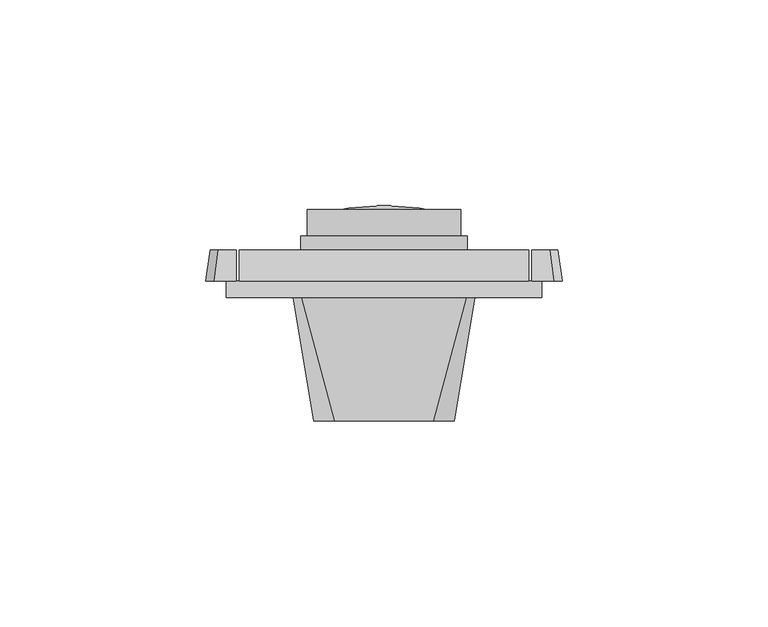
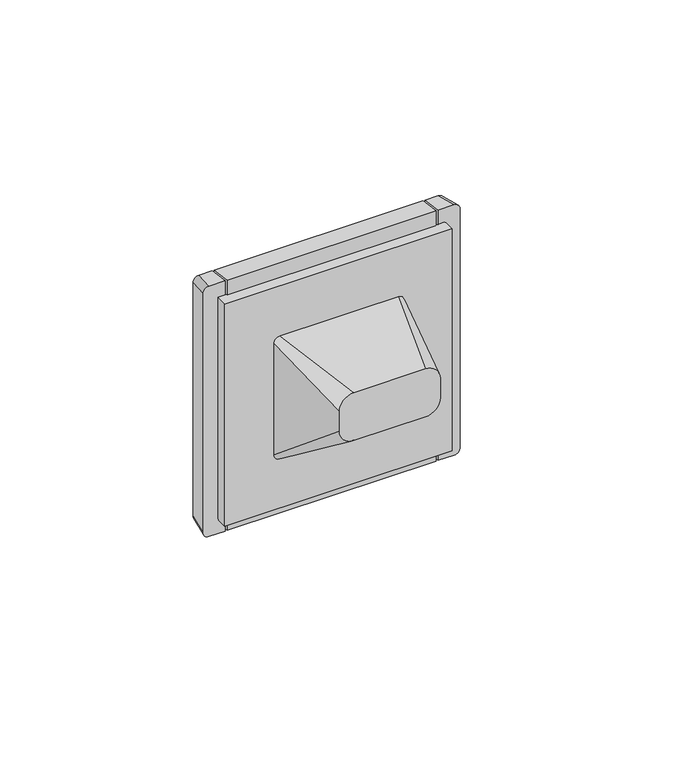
"""IFC4 building model written with IfcOpenShell, lengths in millimetres: proxy geometry, IEK_Forte&Piano_Свето-терморегулятор : СР_FP154."""

from ifc_helpers import new_model, si_unit, point, frame, origin, place, context, project, spatial, polyline, circle_curve, ellipse_curve, trimmed, source, transform, mapped, element, save
from ifc_brep_helpers import plane_surface, cylinder_surface, revolved_surface, extruded_surface, spline_surface, advanced_brep


def electrical_fixtures_bef22575(model_context):
    return source(origin(), model_context, "Body", "AdvancedBrep", [
        advanced_brep(
        [(20.1579006, 14.9544349, 0.0), (-20.1579006, 14.9544349, 0.0), (-19.3454313, 14.9544349, 0.0), (19.3454313, 14.9544349, 0.0), (20.1579006, 11.5, 0.0), (-20.1579006, 11.5, 0.0), (-19.3454313, 11.5, 0.0), (19.3454313, 11.5, 0.0), (35.2, 11.5, 43.5), (35.2, 4.0, 44.5), (35.2, 4.0, -44.5), (35.2, 11.5, -43.5), (-35.2, 11.5, 43.5), (-35.2, 11.5, -43.5), (-35.2, 4.0, -44.5), (-35.2, 4.0, 44.5)],
        [
            (0, 1, circle_curve(frame((0.0, 14.9544349, 0.0), z_axis=(0.0, 1.0, 0.0), x_axis=(-1.0, 0.0, 0.0)), 20.1579006)),
            (1, 2),
            (2, 3, circle_curve(frame((0.0, 14.9544349, 0.0), z_axis=(0.0, -1.0, 0.0), x_axis=(-1.0, 0.0, 0.0)), 19.3454313)),
            (3, 0),
            (1, 0, circle_curve(frame((0.0, 14.9544349, 0.0), z_axis=(0.0, 1.0, 0.0), x_axis=(-1.0, 0.0, 0.0)), 20.1579006)),
            (3, 2, circle_curve(frame((0.0, 14.9544349, 0.0), z_axis=(0.0, -1.0, 0.0), x_axis=(-1.0, 0.0, 0.0)), 19.3454313)),
            (0, 4),
            (4, 5, circle_curve(frame((0.0, 11.5, 0.0), z_axis=(0.0, 1.0, 0.0), x_axis=(-1.0, 0.0, 0.0)), 20.1579006)),
            (5, 1),
            (5, 4, circle_curve(frame((0.0, 11.5, 0.0), z_axis=(0.0, 1.0, 0.0), x_axis=(-1.0, 0.0, 0.0)), 20.1579006)),
            (2, 6),
            (6, 7, circle_curve(frame((0.0, 11.5, 0.0), z_axis=(0.0, -1.0, 0.0), x_axis=(-1.0, 0.0, 0.0)), 19.3454313)),
            (7, 3),
            (7, 6, circle_curve(frame((0.0, 11.5, 0.0), z_axis=(0.0, -1.0, 0.0), x_axis=(-1.0, 0.0, 0.0)), 19.3454313)),
            (8, 9),
            (9, 10),
            (10, 11),
            (11, 8),
            (12, 13),
            (13, 14),
            (14, 15),
            (15, 12),
            (8, 12),
            (15, 9),
            (14, 10),
            (13, 11),
        ],
        [
            plane_surface(frame((0.0, 14.9544349, 0.0), z_axis=(0.0, 1.0, 0.0), x_axis=(-1.0, 0.0, 0.0))),
            cylinder_surface(frame((0.0, 22.9805096, 0.0), z_axis=(0.0, -1.0, 0.0), x_axis=(-1.0, 0.0, 0.0)), 20.1579006),
            revolved_surface(polyline([(-19.3454313, 11.5, 0.0), (-19.3454313, 14.9544349, 0.0)]), (0.0, 22.9805096, 0.0), (0.0, -1.0, 0.0)),
            plane_surface(frame((35.2, 4.0, 44.5), z_axis=(1.0, 0.0, 0.0), x_axis=(0.0, -0.9912279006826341, 0.13216372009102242))),
            plane_surface(frame((-35.2, 4.0, 44.5), z_axis=(-1.0, 0.0, 0.0), x_axis=(0.0, 0.9912279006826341, -0.13216372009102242))),
            plane_surface(frame((35.2, 11.5, 43.5), z_axis=(0.0, 0.13216372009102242, 0.9912279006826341), x_axis=(-1.0, 0.0, 0.0))),
            plane_surface(frame((35.2, 4.0, 44.5), z_axis=(0.0, -1.0, 0.0), x_axis=(-1.0, 0.0, 0.0))),
            plane_surface(frame((35.2, 4.0, -44.5), z_axis=(0.0, 0.1321637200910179, -0.9912279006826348), x_axis=(-1.0, 0.0, 0.0))),
            plane_surface(frame((35.2, 11.5, -43.5), z_axis=(0.0, 1.0, 0.0), x_axis=(-1.0, 0.0, 0.0))),
        ],
        [
            (0, [[1, 2, 3, 4]]),
            (0, [[-2, 5, -4, 6]]),
            (1, [[-1, 7, 8, 9]]),
            (1, [[-5, -9, 10, -7]]),
            (2, [[-3, 11, 12, 13]]),
            (2, [[-6, -13, 14, -11]]),
            (3, [[15, 16, 17, 18]]),
            (4, [[19, 20, 21, 22]]),
            (5, [[-15, 23, -22, 24]]),
            (6, [[-16, -24, -21, 25]]),
            (7, [[-17, -25, -20, 26]]),
            (8, [[-12, -14]]),
            (8, [[-18, -26, -19, -23], [-8, -10]]),
        ],
    ),
        advanced_brep(
        [(0.0, 5.8439145, 0.0), (-18.6103946, 5.8439145, 0.0), (18.6103946, 5.8439145, 0.0), (18.6103946, 21.3995837, 0.0), (-18.6103946, 21.3995837, 0.0), (-17.7859144, 21.3995837, 0.0), (17.7859144, 21.3995837, 0.0), (17.0578708, 20.0217188, 0.0), (-17.0578708, 20.0217188, 0.0), (0.0, 22.3213947, 0.0)],
        [
            (0, 1),
            (1, 2, circle_curve(frame((0.0, 5.8439145, 0.0), z_axis=(0.0, -1.0, 0.0), x_axis=(-1.0, 0.0, 0.0)), 18.6103946)),
            (2, 0),
            (2, 1, circle_curve(frame((0.0, 5.8439145, 0.0), z_axis=(0.0, -1.0, 0.0), x_axis=(-1.0, 0.0, 0.0)), 18.6103946)),
            (3, 4, circle_curve(frame((0.0, 21.3995837, 0.0), z_axis=(0.0, 1.0, 0.0), x_axis=(-1.0, 0.0, 0.0)), 18.6103946)),
            (4, 5),
            (5, 6, circle_curve(frame((0.0, 21.3995837, 0.0), z_axis=(0.0, -1.0, 0.0), x_axis=(-1.0, 0.0, 0.0)), 17.7859144)),
            (6, 3),
            (4, 3, circle_curve(frame((0.0, 21.3995837, 0.0), z_axis=(0.0, 1.0, 0.0), x_axis=(-1.0, 0.0, 0.0)), 18.6103946)),
            (6, 5, circle_curve(frame((0.0, 21.3995837, 0.0), z_axis=(0.0, -1.0, 0.0), x_axis=(-1.0, 0.0, 0.0)), 17.7859144)),
            (1, 4),
            (3, 2),
            (7, 8, circle_curve(frame((0.0, 20.0217188, 0.0), z_axis=(0.0, 1.0, 0.0), x_axis=(-1.0, 0.0, 0.0)), 17.0578708)),
            (8, 9, circle_curve(frame((0.0, -42.0919141, 0.0), z_axis=(0.0, 0.0, -1.0), x_axis=(1.0, 0.0, 0.0)), 64.4133088)),
            (9, 7, circle_curve(frame((0.0, -42.0919141, 0.0), z_axis=(0.0, 0.0, -1.0), x_axis=(-1.0, 0.0, 0.0)), 64.4133088)),
            (8, 7, circle_curve(frame((0.0, 20.0217188, 0.0), z_axis=(0.0, 1.0, 0.0), x_axis=(-1.0, 0.0, 0.0)), 17.0578708)),
            (5, 8),
            (7, 6),
        ],
        [
            plane_surface(frame((0.0, 5.8439145, 0.0), z_axis=(0.0, -1.0, 0.0), x_axis=(-1.0, 0.0, 0.0))),
            plane_surface(frame((0.0, 21.3995837, 0.0), z_axis=(0.0, 1.0, 0.0), x_axis=(-1.0, 0.0, 0.0))),
            cylinder_surface(frame((0.0, 23.2432057, 0.0), z_axis=(0.0, -1.0, 0.0), x_axis=(-1.0, 0.0, 0.0)), 18.6103946),
            revolved_surface(trimmed(ellipse_curve(frame((0.0, -42.0919141, 0.0), z_axis=(0.0, 0.0, 1.0), x_axis=(1.0, 0.0, 0.0)), 64.4133088, 64.4133088), [point((0.0, 22.3213947, 0.0))], [point((-17.0578708, 20.0217188, 0.0))], True, "CARTESIAN"), (0.0, 23.2432057, 0.0), (0.0, -1.0, 0.0)),
            revolved_surface(polyline([(-17.0578708, 20.0217188, 0.0), (-17.7859144, 21.3995837, 0.0)]), (0.0, 23.2432057, 0.0), (0.0, -1.0, 0.0)),
        ],
        [
            (0, [[1, 2, 3]]),
            (0, [[-3, 4, -1]]),
            (1, [[5, 6, 7, 8]]),
            (1, [[9, -8, 10, -6]]),
            (2, [[-2, 11, -5, 12]]),
            (2, [[-4, -12, -9, -11]]),
            (3, [[13, 14, 15]]),
            (3, [[16, -15, -14]]),
            (4, [[-7, 17, -13, 18]]),
            (4, [[-10, -18, -16, -17]]),
        ],
    ),
        advanced_brep(
        [(35.8576533, 11.5, 43.5), (35.8576533, 11.5, -43.5), (35.8576533, 4.0, -44.5), (35.8576533, 4.0, -39.5), (35.8576533, 4.0, 39.5), (35.8576533, 4.0, 44.5), (-35.8576533, 11.5, -43.5), (-35.8576533, 11.5, 43.5), (-35.8576533, 4.0, 44.5), (-35.8576533, 4.0, 39.5), (-35.8576533, 4.0, -39.5), (-35.8576533, 4.0, -44.5), (40.25, 11.5, 43.5), (42.25, 11.5, 41.5), (42.25, 11.5, -41.5), (40.25, 11.5, -43.5), (-40.25, 11.5, -43.5), (-42.25, 11.5, -41.5), (-42.25, 11.5, 41.5), (-40.25, 11.5, 43.5), (-41.25, 4.0, 44.5), (-43.25, 4.0, 42.5), (-43.25, 4.0, -42.5), (-41.25, 4.0, -44.5), (-38.25, 4.0, -39.5), (-38.25, 4.0, 39.5), (41.25, 4.0, -44.5), (43.25, 4.0, -42.5), (43.25, 4.0, 42.5), (41.25, 4.0, 44.5), (38.25, 4.0, 39.5), (38.25, 4.0, -39.5), (-38.25, 0.0, 39.5), (-38.25, 0.0, -39.5), (38.25, 0.0, -39.5), (38.25, 0.0, 39.5)],
        [
            (0, 1),
            (1, 2),
            (2, 3),
            (3, 4),
            (4, 5),
            (5, 0),
            (6, 7),
            (7, 8),
            (8, 9),
            (9, 10),
            (10, 11),
            (11, 6),
            (12, 13, circle_curve(frame((40.25, 11.5, 41.5), z_axis=(0.0, 1.0, 0.0), x_axis=(-1.0, 0.0, 0.0)), 2.0)),
            (13, 14),
            (14, 15, circle_curve(frame((40.25, 11.5, -41.5), z_axis=(0.0, 1.0, 0.0), x_axis=(-1.0, 0.0, 0.0)), 2.0)),
            (15, 1),
            (0, 12),
            (16, 17, circle_curve(frame((-40.25, 11.5, -41.5), z_axis=(0.0, 1.0, 0.0), x_axis=(-1.0, 0.0, 0.0)), 2.0)),
            (17, 18),
            (18, 19, circle_curve(frame((-40.25, 11.5, 41.5), z_axis=(0.0, 1.0, 0.0), x_axis=(-1.0, 0.0, 0.0)), 2.0)),
            (19, 7),
            (6, 16),
            (20, 21, circle_curve(frame((-41.25, 4.0, 42.5), z_axis=(0.0, -1.0, 0.0), x_axis=(-1.0, 0.0, 0.0)), 2.0)),
            (21, 22),
            (22, 23, circle_curve(frame((-41.25, 4.0, -42.5), z_axis=(0.0, -1.0, 0.0), x_axis=(-1.0, 0.0, 0.0)), 2.0)),
            (23, 11),
            (10, 24),
            (24, 25),
            (25, 9),
            (8, 20),
            (26, 27, circle_curve(frame((41.25, 4.0, -42.5), z_axis=(0.0, -1.0, 0.0), x_axis=(-1.0, 0.0, 0.0)), 2.0)),
            (27, 28),
            (28, 29, circle_curve(frame((41.25, 4.0, 42.5), z_axis=(0.0, -1.0, 0.0), x_axis=(-1.0, 0.0, 0.0)), 2.0)),
            (29, 5),
            (4, 30),
            (30, 31),
            (31, 3),
            (2, 26),
            (29, 12),
            (19, 20),
            (28, 13),
            (27, 14),
            (26, 15),
            (23, 16),
            (22, 17),
            (21, 18),
            (3, 10),
            (9, 4),
            (32, 33),
            (33, 34),
            (34, 35),
            (35, 32),
            (32, 25),
            (24, 33),
            (31, 34),
            (30, 35),
        ],
        [
            plane_surface(frame((35.8576533, 11.5, 44.5), z_axis=(-1.0, 0.0, 0.0), x_axis=(0.0, -1.0, 0.0))),
            plane_surface(frame((-35.8576533, 11.5, -44.5), z_axis=(1.0, 0.0, 0.0), x_axis=(0.0, -1.0, 0.0))),
            plane_surface(frame((0.0, 11.5, 0.0), z_axis=(0.0, 1.0, 0.0), x_axis=(1.0, 0.0, 0.0))),
            plane_surface(frame((0.0, 4.0, 0.0), z_axis=(0.0, -1.0, 0.0), x_axis=(1.0, 0.0, 0.0))),
            plane_surface(frame((0.0, 4.0, 44.5), z_axis=(0.0, 0.13216372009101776, 0.9912279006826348), x_axis=(1.0, 0.0, 0.0))),
            extruded_surface(trimmed(circle_curve(frame((41.25, 4.0, 42.5), z_axis=(0.0, 1.0, 0.0), x_axis=(-1.0, 0.0, 0.0)), 2.0), [point((41.25, 4.0, 44.5))], [point((43.25, 4.0, 42.5))], True, "CARTESIAN"), (-1.0, 7.5, -1.0), 7.632168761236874),
            plane_surface(frame((43.25, 4.0, 0.0), z_axis=(0.9912279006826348, 0.13216372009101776, 0.0), x_axis=(0.0, 0.0, -1.0))),
            extruded_surface(trimmed(circle_curve(frame((41.25, 4.0, -42.5), z_axis=(0.0, 1.0, 0.0), x_axis=(-1.0, 0.0, 0.0)), 2.0), [point((43.25, 4.0, -42.5))], [point((41.25, 4.0, -44.5))], True, "CARTESIAN"), (-1.0, 7.5, 1.0), 7.632168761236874),
            plane_surface(frame((0.0, 4.0, -44.5), z_axis=(0.0, 0.13216372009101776, -0.9912279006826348), x_axis=(-1.0, 0.0, 0.0))),
            extruded_surface(trimmed(circle_curve(frame((-41.25, 4.0, -42.5), z_axis=(0.0, 1.0, 0.0), x_axis=(-1.0, 0.0, 0.0)), 2.0), [point((-41.25, 4.0, -44.5))], [point((-43.25, 4.0, -42.5))], True, "CARTESIAN"), (1.0, 7.5, 1.0), 7.632168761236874),
            plane_surface(frame((-43.25, 4.0, 0.0), z_axis=(-0.9912279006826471, 0.13216372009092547, 0.0), x_axis=(0.0, 0.0, 1.0))),
            extruded_surface(trimmed(circle_curve(frame((-41.25, 4.0, 42.5), z_axis=(0.0, 1.0, 0.0), x_axis=(-1.0, 0.0, 0.0)), 2.0), [point((-43.25, 4.0, 42.5))], [point((-41.25, 4.0, 44.5))], True, "CARTESIAN"), (1.0, 7.5, -1.0), 7.632168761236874),
            plane_surface(frame((-38.25, 4.0, 39.5), z_axis=(0.0, 1.0, 0.0), x_axis=(0.0, 0.0, 1.0))),
            plane_surface(frame((-38.25, 0.0, 39.5), z_axis=(0.0, -1.0, 0.0), x_axis=(0.0, 0.0, -1.0))),
            plane_surface(frame((-38.25, 0.0, 39.5), z_axis=(-1.0, 0.0, 0.0), x_axis=(0.0, 1.0, 0.0))),
            plane_surface(frame((-38.25, 0.0, -39.5), z_axis=(0.0, 0.0, -1.0), x_axis=(0.0, 1.0, 0.0))),
            plane_surface(frame((38.25, 0.0, -39.5), z_axis=(1.0, 0.0, 0.0), x_axis=(0.0, 1.0, 0.0))),
            plane_surface(frame((38.25, 0.0, 39.5), z_axis=(0.0, 0.0, 1.0), x_axis=(0.0, 1.0, 0.0))),
        ],
        [
            (0, [[1, 2, 3, 4, 5, 6]]),
            (1, [[7, 8, 9, 10, 11, 12]]),
            (2, [[13, 14, 15, 16, -1, 17]]),
            (2, [[18, 19, 20, 21, -7, 22]]),
            (3, [[23, 24, 25, 26, -11, 27, 28, 29, -9, 30]]),
            (3, [[31, 32, 33, 34, -5, 35, 36, 37, -3, 38]]),
            (4, [[39, -17, -6, -34]]),
            (4, [[40, -30, -8, -21]]),
            (5, [[-13, -39, -33, 41]]),
            (6, [[-14, -41, -32, 42]]),
            (7, [[-15, -42, -31, 43]]),
            (8, [[-43, -38, -2, -16]]),
            (8, [[44, -22, -12, -26]]),
            (9, [[-18, -44, -25, 45]]),
            (10, [[-19, -45, -24, 46]]),
            (11, [[-20, -46, -23, -40]]),
            (12, [[47, -10, 48, -4]]),
            (13, [[49, 50, 51, 52]]),
            (14, [[-49, 53, -28, 54]]),
            (15, [[-50, -54, -27, -47, -37, 55]]),
            (16, [[-51, -55, -36, 56]]),
            (17, [[-52, -56, -35, -48, -29, -53]]),
        ],
    ),
        advanced_brep(
        [(-12.0, -30.0, 17.0), (-17.0, -30.0, 12.0), (-17.0, -30.0, 5.0), (-12.0, -30.0, 0.0), (12.0, -30.0, 0.0), (17.0, -30.0, 5.0), (17.0, -30.0, 12.0), (12.0, -30.0, 17.0), (-20.0, 0.0, 22.0), (20.0, 0.0, 22.0), (22.0, 0.0, 20.0), (22.0, 0.0, -20.0), (20.0, 0.0, -22.0), (-20.0, 0.0, -22.0), (-22.0, 0.0, -20.0), (-22.0, 0.0, 20.0)],
        [
            (0, 1, circle_curve(frame((-12.0, -30.0, 12.0), z_axis=(0.0, -1.0, 0.0), x_axis=(1.0, 0.0, 0.0)), 5.0)),
            (1, 2),
            (2, 3, circle_curve(frame((-12.0, -30.0, 5.0), z_axis=(0.0, -1.0, 0.0), x_axis=(1.0, 0.0, 0.0)), 5.0)),
            (3, 4),
            (4, 5, circle_curve(frame((12.0, -30.0, 5.0), z_axis=(0.0, -1.0, 0.0), x_axis=(1.0, 0.0, 0.0)), 5.0)),
            (5, 6),
            (6, 7, circle_curve(frame((12.0, -30.0, 12.0), z_axis=(0.0, -1.0, 0.0), x_axis=(1.0, 0.0, 0.0)), 5.0)),
            (7, 0),
            (8, 9),
            (9, 10, circle_curve(frame((20.0, 0.0, 20.0), z_axis=(0.0, 1.0, 0.0), x_axis=(1.0, 0.0, 0.0)), 2.0)),
            (10, 11),
            (11, 12, circle_curve(frame((20.0, 0.0, -20.0), z_axis=(0.0, 1.0, 0.0), x_axis=(1.0, 0.0, 0.0)), 2.0)),
            (12, 13),
            (13, 14, circle_curve(frame((-20.0, 0.0, -20.0), z_axis=(0.0, 1.0, 0.0), x_axis=(1.0, 0.0, 0.0)), 2.0)),
            (14, 15),
            (15, 8, circle_curve(frame((-20.0, 0.0, 20.0), z_axis=(0.0, 1.0, 0.0), x_axis=(1.0, 0.0, 0.0)), 2.0)),
            (8, 0),
            (7, 9),
            (6, 10),
            (5, 11),
            (4, 12),
            (3, 13),
            (2, 14),
            (1, 15),
        ],
        [
            plane_surface(frame((0.0, -30.0, 8.5), z_axis=(0.0, -1.0, 0.0), x_axis=(-1.0, 0.0, 0.0))),
            plane_surface(frame((0.0, 0.0, 0.0), z_axis=(0.0, 1.0, 0.0), x_axis=(-1.0, 0.0, 0.0))),
            plane_surface(frame((0.0, 0.0, 22.0), z_axis=(0.0, -0.16439898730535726, 0.9863939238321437), x_axis=(-1.0, 0.0, 0.0))),
            spline_surface(2, 1, [[(22.0, 0.0, 20.0), (17.0, -30.0, 12.0)], [(22.0, 0.0, 22.0), (17.0, -30.0, 17.0)], [(20.0, 0.0, 22.0), (12.0, -30.0, 17.0)]], [3, 3], [2, 2], [0.0, 1.0], [0.0, 1.0], weights=[[1.0, 1.0], [0.7071067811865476, 0.7071067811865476], [1.0, 1.0]]),
            plane_surface(frame((22.0, 0.0, 0.0), z_axis=(0.9863939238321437, -0.1643989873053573, 0.0), x_axis=(0.0, 0.0, 1.0))),
            spline_surface(2, 1, [[(20.0, 0.0, -22.0), (12.0, -30.0, 0.0)], [(22.0, 0.0, -22.0), (17.0, -30.0, 0.0)], [(22.0, 0.0, -20.0), (17.0, -30.0, 5.0)]], [3, 3], [2, 2], [0.0, 1.0], [0.0, 1.0], weights=[[1.0, 1.0], [0.7071067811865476, 0.7071067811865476], [1.0, 1.0]]),
            plane_surface(frame((0.0, 0.0, -22.0), z_axis=(0.0, -0.591363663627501, -0.8064049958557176), x_axis=(1.0, 0.0, 0.0))),
            spline_surface(2, 1, [[(-22.0, 0.0, -20.0), (-17.0, -30.0, 5.0)], [(-22.0, 0.0, -22.0), (-17.0, -30.0, 0.0)], [(-20.0, 0.0, -22.0), (-12.0, -30.0, 0.0)]], [3, 3], [2, 2], [0.0, 1.0], [0.0, 1.0], weights=[[1.0, 1.0], [0.7071067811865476, 0.7071067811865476], [1.0, 1.0]]),
            plane_surface(frame((-22.0, 0.0, 0.0), z_axis=(-0.9863939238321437, -0.1643989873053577, 0.0), x_axis=(0.0, 0.0, -1.0))),
            spline_surface(2, 1, [[(-20.0, 0.0, 22.0), (-12.0, -30.0, 17.0)], [(-22.0, 0.0, 22.0), (-17.0, -30.0, 17.0)], [(-22.0, 0.0, 20.0), (-17.0, -30.0, 12.0)]], [3, 3], [2, 2], [0.0, 1.0], [0.0, 1.0], weights=[[1.0, 1.0], [0.7071067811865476, 0.7071067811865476], [1.0, 1.0]]),
        ],
        [
            (0, [[1, 2, 3, 4, 5, 6, 7, 8]]),
            (1, [[9, 10, 11, 12, 13, 14, 15, 16]]),
            (2, [[-9, 17, -8, 18]]),
            (3, [[-10, -18, -7, 19]]),
            (4, [[-11, -19, -6, 20]]),
            (5, [[-12, -20, -5, 21]]),
            (6, [[-13, -21, -4, 22]]),
            (7, [[-14, -22, -3, 23]]),
            (8, [[-15, -23, -2, 24]]),
            (9, [[-16, -24, -1, -17]]),
        ],
    ),
    ])


if __name__ == "__main__":
    model = new_model("IFC4")
    model_context = context("Model", 3, world=origin())
    ifc_project = project(units=[si_unit("LENGTHUNIT", "METRE", prefix="MILLI")], contexts=[model_context])
    site = spatial("IfcSite", under=ifc_project)
    building = spatial("IfcBuilding", under=site)
    placement = place(None, origin())
    electrical_fixtures_shape = electrical_fixtures_bef22575(model_context)
    element("IfcBuildingElementProxy", 1, Name="IEK_Forte&Piano_Свето-терморегулятор : СР_FP154", ObjectType="IEK_Forte&Piano_Свето-терморегулятор : СР_FP154", at=placement, inside=building, context=model_context, shape_type="MappedRepresentation", body=[
        mapped(electrical_fixtures_shape, transform((0.0, 0.0, 0.0), x_axis=(1.0, 0.0, 0.0), y_axis=(0.0, 1.0, 0.0), z_axis=(0.0, 0.0, 1.0))),
    ])
    save(model, "model.ifc")
